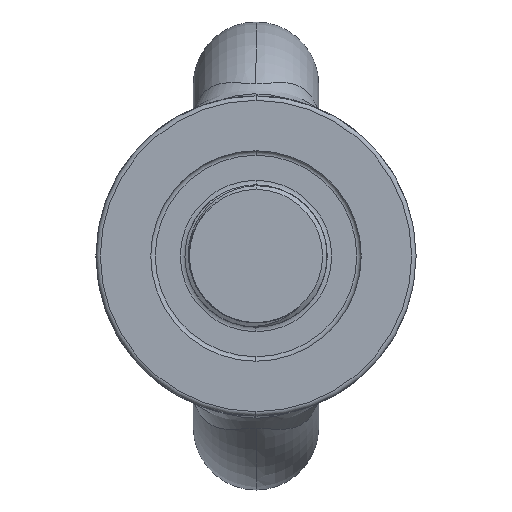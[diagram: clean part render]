
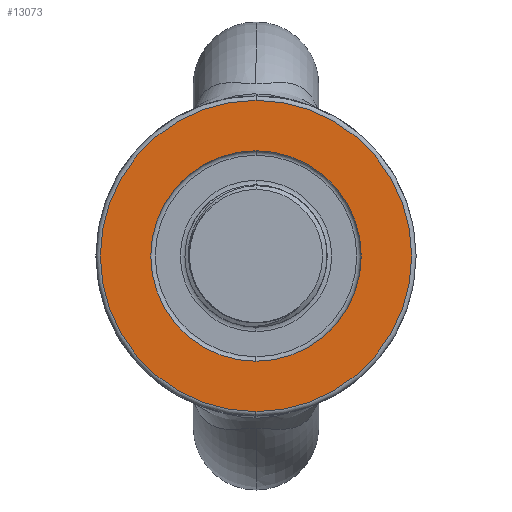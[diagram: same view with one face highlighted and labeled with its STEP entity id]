
A CAD part, left-side view. The second image highlights one B-rep face of the part: STEP entity #13073.
In plain terms, the highlighted planar face has unit normal (-1, 0, 0).
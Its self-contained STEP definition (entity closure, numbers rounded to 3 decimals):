
#90 = CIRCLE ( 'NONE', #13567, 69.5 ) ;
#103 = CIRCLE ( 'NONE', #13579, 69.5 ) ;
#105 = CIRCLE ( 'NONE', #13580, 47. ) ;
#192 = FACE_OUTER_BOUND ( 'NONE', #7114, .T. ) ;
#202 = FACE_BOUND ( 'NONE', #12337, .T. ) ;
#476 = DIRECTION ( 'NONE',  ( 0., 0., 1. ) ) ;
#500 = DIRECTION ( 'NONE',  ( -1., 0., 0. ) ) ;
#557 = CARTESIAN_POINT ( 'NONE',  ( 0., 0., 0. ) ) ;
#765 = AXIS2_PLACEMENT_3D ( 'NONE', #9323, #9385, #9386 ) ;
#805 = EDGE_CURVE ( 'NONE', #12730, #12612, #90, .T. ) ;
#836 = EDGE_CURVE ( 'NONE', #12612, #12730, #103, .T. ) ;
#838 = EDGE_CURVE ( 'NONE', #12661, #12616, #105, .T. ) ;
#949 = ORIENTED_EDGE ( 'NONE', *, *, #805, .T. ) ;
#2933 = CARTESIAN_POINT ( 'NONE',  ( 0., 0., -47. ) ) ;
#2945 = CARTESIAN_POINT ( 'NONE',  ( 0., 0., -69.5 ) ) ;
#2991 = CARTESIAN_POINT ( 'NONE',  ( 0., 0., 47. ) ) ;
#3060 = CARTESIAN_POINT ( 'NONE',  ( 0., 0., 69.5 ) ) ;
#6989 = CARTESIAN_POINT ( 'NONE',  ( 0., 0., 0. ) ) ;
#6990 = DIRECTION ( 'NONE',  ( -1., 0., 0. ) ) ;
#6991 = DIRECTION ( 'NONE',  ( 0., 0., 1. ) ) ;
#7043 = CIRCLE ( 'NONE', #13032, 47. ) ;
#7114 = EDGE_LOOP ( 'NONE', ( #949, #12840 ) ) ;
#9323 = CARTESIAN_POINT ( 'NONE',  ( 0., 0., -69.5 ) ) ;
#9383 = PLANE ( 'NONE',  #765 ) ;
#9385 = DIRECTION ( 'NONE',  ( 1., 0., 0. ) ) ;
#9386 = DIRECTION ( 'NONE',  ( 0., 0., -1. ) ) ;
#12024 = CARTESIAN_POINT ( 'NONE',  ( 0., 0., 0. ) ) ;
#12026 = DIRECTION ( 'NONE',  ( 0., 0., 1. ) ) ;
#12027 = DIRECTION ( 'NONE',  ( -1., 0., 0. ) ) ;
#12029 = DIRECTION ( 'NONE',  ( -1., 0., 0. ) ) ;
#12030 = CARTESIAN_POINT ( 'NONE',  ( 0., 0., 0. ) ) ;
#12032 = DIRECTION ( 'NONE',  ( 0., 0., 1. ) ) ;
#12337 = EDGE_LOOP ( 'NONE', ( #12831, #12884 ) ) ;
#12612 = VERTEX_POINT ( 'NONE', #2945 ) ;
#12616 = VERTEX_POINT ( 'NONE', #2933 ) ;
#12661 = VERTEX_POINT ( 'NONE', #2991 ) ;
#12730 = VERTEX_POINT ( 'NONE', #3060 ) ;
#12831 = ORIENTED_EDGE ( 'NONE', *, *, #838, .F. ) ;
#12840 = ORIENTED_EDGE ( 'NONE', *, *, #836, .T. ) ;
#12884 = ORIENTED_EDGE ( 'NONE', *, *, #13645, .F. ) ;
#13032 = AXIS2_PLACEMENT_3D ( 'NONE', #6989, #6990, #6991 ) ;
#13073 = ADVANCED_FACE ( 'NONE', ( #202, #192 ), #9383, .F. ) ;
#13567 = AXIS2_PLACEMENT_3D ( 'NONE', #557, #500, #476 ) ;
#13579 = AXIS2_PLACEMENT_3D ( 'NONE', #12024, #12027, #12026 ) ;
#13580 = AXIS2_PLACEMENT_3D ( 'NONE', #12030, #12029, #12032 ) ;
#13645 = EDGE_CURVE ( 'NONE', #12616, #12661, #7043, .T. ) ;
